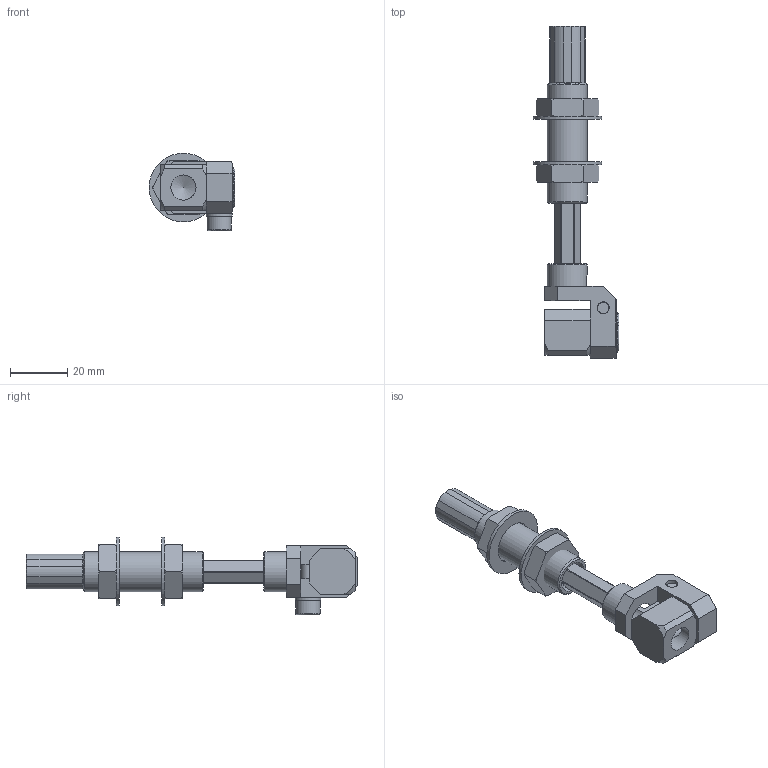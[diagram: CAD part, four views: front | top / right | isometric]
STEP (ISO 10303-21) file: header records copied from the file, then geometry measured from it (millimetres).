
FILE_DESCRIPTION(('STEP AP214'),'1');
FILE_NAME('CA.SSNG.14201818.stp','2019-02-08T15:20:05',(' '),(' '),'Spatial InterOp 3D',' ',' ');
FILE_SCHEMA(('AUTOMOTIVE_DESIGN { 1 0 10303 214 1 1 1 1 }'));
Length unit declared in the file: millimetre
Products named in the file (12): CA.SSNG.14201818; VSNG.1420.2.1; VSN.14.1; VSN.1420.4; V.TCE5x18; R.5.SCH; VSN.1420.3; M.8.45X34; GGB.14.18.18; SSN.14201818.1; R.14.SCH; 05.01.001.06
Assembly tree (13 placements, depth 2):
  CA.SSNG.14201818
    VSNG.1420.2.1
    VSN.14.1
    VSN.1420.4
    V.TCE5x18
    R.5.SCH
    VSN.1420.3
    M.8.45X34
    GGB.14.18.18
    SSN.14201818.1
    R.14.SCH  x2
    05.01.001.06  x2
Bounding box: 30 x 116 x 27.1 mm (x, y, z)
Volume: 18077.9 mm3; surface area: 18042.7 mm2
Topology: 12 solids, 13 shells, 390 faces, 1068 edges, 704 vertices
Faces by surface type: plane 285, cylinder 50, cone 48, torus 6, bspline 1
Full cylindrical faces by diameter (mm): 4 x1, 4.2 x1, 4.8 x1, 5 x3, 5.3 x1, 5.5 x1, 6 x2, 6.9 x2, 7.2 x1, 8.5 x1, 8.566 x1, 8.8 x3, 9 x1, 9.5 x1, 10 x1, 11 x2, 12.376 x2, 13.95 x2, 14 x2, 15 x2, 24 x2
Entity records: 17233 total; most frequent: CARTESIAN_POINT 4897, DIRECTION 1936, ORIENTED_EDGE 1858, EDGE_CURVE 929, AXIS2_PLACEMENT_3D 694, VERTEX_POINT 644, LINE 548, VECTOR 548
